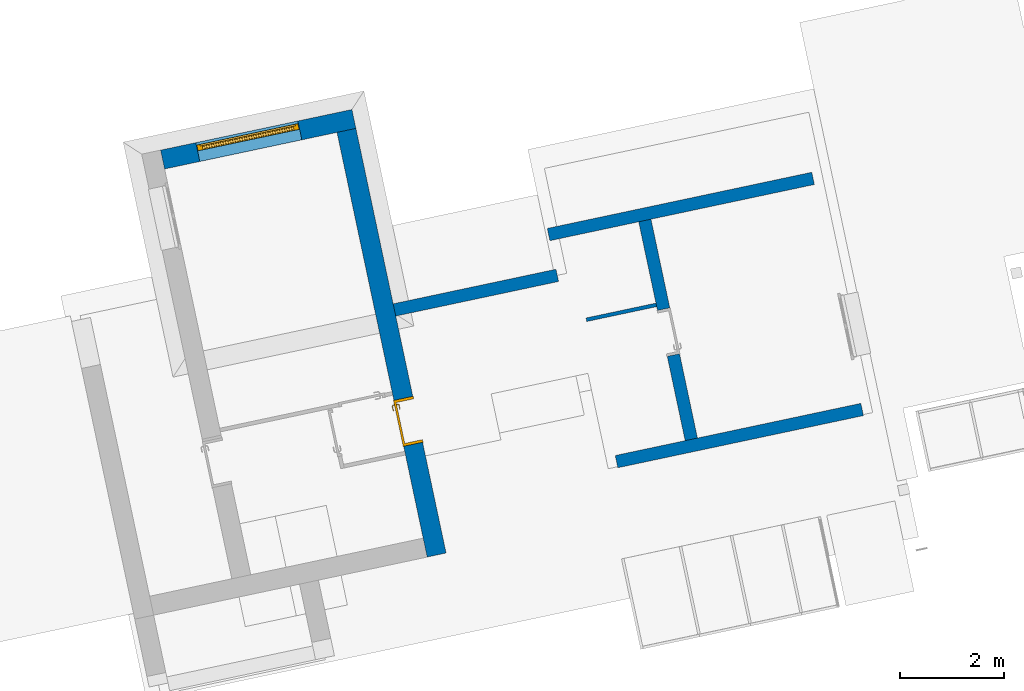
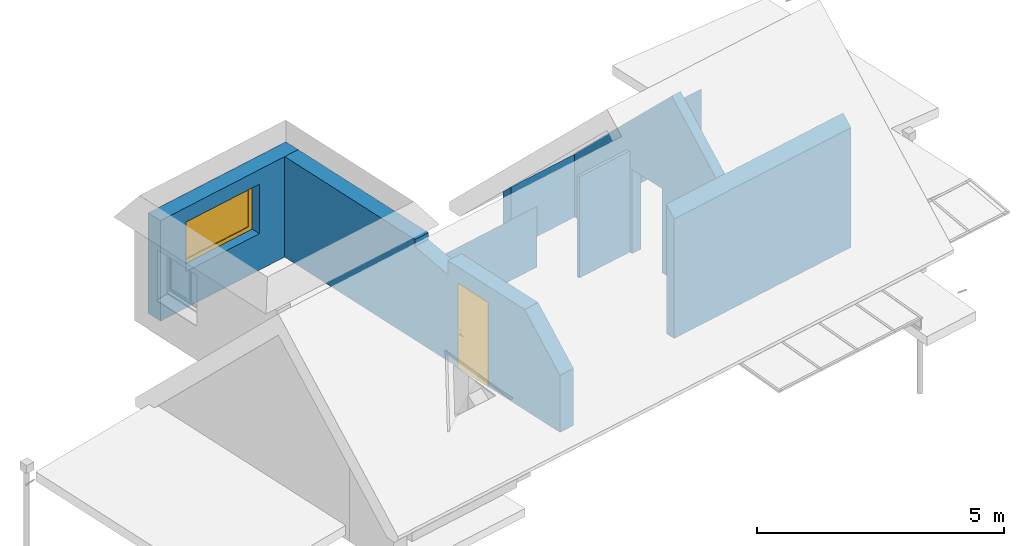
# One storey, part 5 of 10: 7 walls, 1 door, 1 window, 3 openings.
"""IFC2X3 building model written with IfcOpenShell, lengths in centimetres."""

from ifc_helpers import new_model, entity, si_unit, converted_unit, derived_unit, direction, frame, frame_2d, origin, place, context, subcontext, project, spatial, polyline, rectangle, outline, extrude, clip, halfspace, bounded_halfspace, faceted_brep, source, transform, mapped, material, material_list, layer, layer_set, layer_usage, type_object, type_shapes, element, fill, save


model = new_model("IFC2X3")

# Units and contexts
model_context = context("Model", 3, precision=0.001, world=origin(), true_north=direction((6.12303176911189e-17, 1.0)))
body_context = subcontext(model_context, "Body", "Model", "MODEL_VIEW")
ifc_project = project(units=[si_unit("LENGTHUNIT", "METRE", prefix="CENTI"), si_unit("AREAUNIT", "SQUARE_METRE"), si_unit("VOLUMEUNIT", "CUBIC_METRE"), converted_unit("PLANEANGLEUNIT", "DEGREE", entity("IfcRatioMeasure", 0.0174532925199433), si_unit("PLANEANGLEUNIT", "RADIAN"), dimensions=[0, 0, 0, 0, 0, 0, 0]), si_unit("MASSUNIT", "GRAM", prefix="KILO"), derived_unit("MASSDENSITYUNIT", [(si_unit("MASSUNIT", "GRAM", prefix="KILO"), 1), (si_unit("LENGTHUNIT", "METRE"), -3)]), derived_unit("IONCONCENTRATIONUNIT", [(si_unit("MASSUNIT", "GRAM", prefix="KILO"), 1), (si_unit("LENGTHUNIT", "METRE"), -3)]), derived_unit("MOMENTOFINERTIAUNIT", [(si_unit("LENGTHUNIT", "METRE"), 4)]), si_unit("TIMEUNIT", "SECOND"), si_unit("FREQUENCYUNIT", "HERTZ"), si_unit("THERMODYNAMICTEMPERATUREUNIT", "DEGREE_CELSIUS"), derived_unit("THERMALTRANSMITTANCEUNIT", [(si_unit("MASSUNIT", "GRAM", prefix="KILO"), 1), (si_unit("THERMODYNAMICTEMPERATUREUNIT", "KELVIN"), -1), (si_unit("TIMEUNIT", "SECOND"), -3)]), derived_unit("THERMALCONDUCTANCEUNIT", [(si_unit("MASSUNIT", "GRAM", prefix="KILO"), 1), (si_unit("THERMODYNAMICTEMPERATUREUNIT", "KELVIN"), -1), (si_unit("TIMEUNIT", "SECOND"), -3), (si_unit("LENGTHUNIT", "METRE"), 1)]), derived_unit("VOLUMETRICFLOWRATEUNIT", [(si_unit("LENGTHUNIT", "METRE"), 3), (si_unit("TIMEUNIT", "SECOND"), -1)]), derived_unit("MASSFLOWRATEUNIT", [(si_unit("MASSUNIT", "GRAM", prefix="KILO"), 1), (si_unit("TIMEUNIT", "SECOND"), -1)]), derived_unit("ROTATIONALFREQUENCYUNIT", [(si_unit("TIMEUNIT", "SECOND"), -1)]), si_unit("ELECTRICCURRENTUNIT", "AMPERE"), si_unit("ELECTRICVOLTAGEUNIT", "VOLT"), si_unit("POWERUNIT", "WATT"), si_unit("FORCEUNIT", "NEWTON", prefix="KILO"), si_unit("ILLUMINANCEUNIT", "LUX"), si_unit("LUMINOUSFLUXUNIT", "LUMEN"), si_unit("LUMINOUSINTENSITYUNIT", "CANDELA"), derived_unit("USERDEFINED", [(si_unit("MASSUNIT", "GRAM", prefix="KILO"), -1), (si_unit("LENGTHUNIT", "METRE"), -2), (si_unit("TIMEUNIT", "SECOND"), 3), (si_unit("LUMINOUSFLUXUNIT", "LUMEN"), 1)]), derived_unit("USERDEFINED", [(si_unit("MASSUNIT", "GRAM", prefix="KILO"), 1), (si_unit("TIMEUNIT", "SECOND"), -3), (si_unit("LENGTHUNIT", "METRE"), 3), (si_unit("ELECTRICCURRENTUNIT", "AMPERE"), -2)]), derived_unit("SOUNDPOWERUNIT", [(si_unit("MASSUNIT", "GRAM", prefix="KILO"), 1), (si_unit("TIMEUNIT", "SECOND"), -3), (si_unit("LENGTHUNIT", "METRE"), 2)]), derived_unit("SOUNDPRESSUREUNIT", [(si_unit("MASSUNIT", "GRAM", prefix="KILO"), 1), (si_unit("LENGTHUNIT", "METRE"), -1), (si_unit("TIMEUNIT", "SECOND"), -2)]), derived_unit("LINEARVELOCITYUNIT", [(si_unit("LENGTHUNIT", "METRE"), 1), (si_unit("TIMEUNIT", "SECOND"), -1)]), si_unit("PRESSUREUNIT", "PASCAL"), derived_unit("USERDEFINED", [(si_unit("MASSUNIT", "GRAM", prefix="KILO"), 1), (si_unit("LENGTHUNIT", "METRE"), -2), (si_unit("TIMEUNIT", "SECOND"), -2)]), derived_unit("LINEARFORCEUNIT", [(si_unit("MASSUNIT", "GRAM", prefix="KILO"), 1), (si_unit("TIMEUNIT", "SECOND"), -2)]), derived_unit("PLANARFORCEUNIT", [(si_unit("MASSUNIT", "GRAM", prefix="KILO"), 1), (si_unit("LENGTHUNIT", "METRE"), -1), (si_unit("TIMEUNIT", "SECOND"), -2)]), derived_unit("SPECIFICHEATCAPACITYUNIT", [(si_unit("THERMODYNAMICTEMPERATUREUNIT", "KELVIN"), -1), (si_unit("LENGTHUNIT", "METRE"), 2), (si_unit("TIMEUNIT", "SECOND"), -2)]), derived_unit("HEATINGVALUEUNIT", [(si_unit("LENGTHUNIT", "METRE"), 2), (si_unit("TIMEUNIT", "SECOND"), -2)]), derived_unit("VAPORPERMEABILITYUNIT", [(si_unit("LENGTHUNIT", "METRE"), -1), (si_unit("TIMEUNIT", "SECOND"), 1)]), derived_unit("DYNAMICVISCOSITYUNIT", [(si_unit("MASSUNIT", "GRAM", prefix="KILO"), 1), (si_unit("TIMEUNIT", "SECOND"), -1), (si_unit("LENGTHUNIT", "METRE"), -1)]), derived_unit("THERMALEXPANSIONCOEFFICIENTUNIT", [(si_unit("THERMODYNAMICTEMPERATUREUNIT", "KELVIN"), -1)]), derived_unit("MODULUSOFELASTICITYUNIT", [(si_unit("MASSUNIT", "GRAM", prefix="KILO"), 1), (si_unit("LENGTHUNIT", "METRE"), -1), (si_unit("TIMEUNIT", "SECOND"), -2)]), derived_unit("ISOTHERMALMOISTURECAPACITYUNIT", [(si_unit("LENGTHUNIT", "METRE"), 3), (si_unit("MASSUNIT", "GRAM", prefix="KILO"), -1)]), derived_unit("MOISTUREDIFFUSIVITYUNIT", [(si_unit("TIMEUNIT", "SECOND"), -1), (si_unit("LENGTHUNIT", "METRE"), 2)])], contexts=[model_context])

# Site, building, storey
site_placement = place(None, frame((14083.8920177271, -6853.25409548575, 6900.0), z_axis=(0.0, 0.0, 1.0), x_axis=(0.978188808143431, 0.207717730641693, 0.0)))
site = spatial("IfcSite", under=ifc_project, at=site_placement, Name="Surface", CompositionType="ELEMENT")
building_placement = place(site_placement, origin())
building = spatial("IfcBuilding", under=site, at=building_placement, CompositionType="ELEMENT")
storey_placement = place(building_placement, frame((0.0, 0.0, 289.0)))
storey = spatial("IfcBuildingStorey", under=building, at=storey_placement, Name="_R+1", CompositionType="ELEMENT", Elevation=289.0)

# Wall, opening, window
ifc_material_1 = material(Name="__ ENDUIT_Blanc")
ifc_layer_1 = layer(ifc_material_1, 2.0)
ifc_material_2 = material(Name="__ BETON_parpaings")
ifc_layer_2 = layer(ifc_material_2, 20.0)
ifc_material_3 = material(Name="__ ISOLANT (pat 1)")
ifc_layer_3 = layer(ifc_material_3, 13.0)
ifc_layer_4 = layer(ifc_material_1, 2.0)
ifc_layer_set_1 = layer_set([ifc_layer_1, ifc_layer_2, ifc_layer_3, ifc_layer_4], Name="Mur de base:*BRIQUE 37 (20 +INT 13+2 + EXT 2) (Iso+BA13)(enduit)")
ifc_layer_usage_1 = layer_usage(ifc_layer_set_1, "AXIS2", "NEGATIVE", 18.5)
wall_type_1 = type_object("IfcWallType", Name="Mur de base:*BRIQUE 37 (20 +INT 13+2 + EXT 2) (Iso+BA13)(enduit)", PredefinedType="STANDARD", material=ifc_layer_set_1)
wall_1_placement = place(storey_placement, frame((-7501.79714756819, 15696.1673447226, 0.0)))
wall_1 = element("IfcWallStandardCase", 1, at=wall_1_placement, inside=storey, type_object=wall_type_1, material=ifc_layer_usage_1, Name="Mur de base:*BRIQUE 37 (20 +INT 13+2 + EXT 2) (Iso+BA13)(enduit)", ObjectType="Mur de base:*BRIQUE 37 (20 +INT 13+2 + EXT 2) (Iso+BA13)(enduit)", context=body_context, shape_type="SweptSolid", body=[
    extrude(rectangle(XDim=374.842004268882, YDim=37.000000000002, at=frame_2d((187.421002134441, 0.0), x_axis=(-1.0, 0.0))), origin(), (0.0, 0.0, 1.0), 247.999999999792),
])
opening_1_placement = place(wall_1_placement, frame((269.0, 18.500000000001, 90.0)))
opening_1 = element("IfcOpeningElement", 2, at=opening_1_placement, cuts=wall_1, Name="OPTIMAL Top Turn Single Window-1:200x120 PVC:1", ObjectType="Opening", context=body_context, shape_type="SweptSolid", body=[
    extrude(rectangle(XDim=122.0, YDim=200.0, at=frame_2d((61.0, 99.9999999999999), x_axis=(1.0, 0.0))), frame((0.0, 0.0, 0.0), z_axis=(0.0, -1.0, 0.0), x_axis=(0.0, 0.0, 1.0)), (0.0, 0.0, 1.0), 37.0),
])
ifc_material_4 = material(Name="Fenêtre - Vitrage")
ifc_material_5 = material(Name="PVC - Blanc")
ifc_material_list = material_list([ifc_material_4, ifc_material_5])
window_style = type_object("IfcWindowStyle", Name="OPTIMAL Top Turn Single Window-1:200x120 PVC", ConstructionType="NOTDEFINED", OperationType="NOTDEFINED", ParameterTakesPrecedence=False, Sizeable=False, material=ifc_material_list)
shared_shape_1 = source(origin(), body_context, "Body", "SweptSolid", [
    extrude(rectangle(XDim=0.399999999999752, YDim=178.6, at=frame_2d((0.0, 7.105427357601e-15), x_axis=(1.0, 0.0))), frame((100.0, 10.1000000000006, 10.7000000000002), z_axis=(0.0, 0.0, 1.0), x_axis=(0.0, 1.0, 0.0)), (0.0, 0.0, 1.0), 100.6),
    extrude(rectangle(XDim=0.399999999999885, YDim=178.6, at=frame_2d((0.0, -7.105427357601e-15), x_axis=(1.0, 0.0))), frame((100.0, 14.1000000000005, 10.7000000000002), z_axis=(0.0, 0.0, 1.0), x_axis=(0.0, 1.0, 0.0)), (0.0, 0.0, 1.0), 100.6),
    extrude(outline(polyline([(-54.5, -93.5), (54.5, -93.5), (54.4999999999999, 93.5000000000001), (-54.5, 93.5), (-54.5, -93.5)]), holes=[polyline([(50.3, -89.3), (-50.2999999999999, -89.3), (-50.3, 89.3), (50.2999999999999, 89.3), (50.3, -89.3)])]), frame((100.0, 8.0, 61.0), z_axis=(0.0, 1.0, 0.0), x_axis=(0.0, 0.0, 1.0)), (0.0, 0.0, 1.0), 8.20000000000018),
    extrude(outline(polyline([(-60.0, -99.0), (60.0, -99.0), (60.0, 99.0), (-60.0, 99.0), (-60.0, -99.0)]), holes=[polyline([(54.5, -93.5), (-54.5, -93.5), (-54.5000000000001, 93.5), (54.5, 93.5), (54.5, -93.5)])]), frame((100.0, 5.0, 61.0), z_axis=(0.0, 1.0, 0.0), x_axis=(0.0, 0.0, 1.0)), (0.0, 0.0, 1.0), 11.2000000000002),
])
type_shapes(window_style, [shared_shape_1])
window_placement = place(opening_1_placement, frame((0.0, 0.0, 0.0), z_axis=(0.0, 0.0, 1.0), x_axis=(-1.0, 0.0, 0.0)))
window = element("IfcWindow", 3, at=window_placement, inside=storey, type_object=window_style, material=ifc_material_list, Name="OPTIMAL Top Turn Single Window-1:200x120 PVC", ObjectType="OPTIMAL Top Turn Single Window-1:200x120 PVC", OverallHeight=122.0, OverallWidth=200.0, context=body_context, shape_type="MappedRepresentation", body=[
    mapped(shared_shape_1, transform((0.0, 0.0, 0.0), scale=1.0)),
])
fill(opening_1, window)

# Wall, opening, door
wall_2_placement = place(storey_placement, frame((-7145.4551432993, 15677.6673447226, 0.0), z_axis=(0.0, 0.0, 1.0), x_axis=(0.0, -1.0, 0.0)))
wall_2 = element("IfcWallStandardCase", 4, at=wall_2_placement, inside=storey, type_object=wall_type_1, material=ifc_layer_usage_1, Name="Mur de base:*BRIQUE 37 (20 +INT 13+2 + EXT 2) (Iso+BA13)(enduit)", ObjectType="Mur de base:*BRIQUE 37 (20 +INT 13+2 + EXT 2) (Iso+BA13)(enduit)", context=body_context, shape_type="Clipping", body=[
    clip(clip(extrude(rectangle(XDim=831.994866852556, YDim=37.0000000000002, at=frame_2d((415.997433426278, -3.37507799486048e-14), x_axis=(-1.0, 0.0))), origin(), (0.0, 0.0, 1.0), 247.999999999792), bounded_halfspace(frame((393.500000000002, -18.5000000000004, 231.0), z_axis=(0.173648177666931, 0.0, 0.984807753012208), x_axis=(0.0, 1.0, 0.0)), False, frame((393.500000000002, -18.5000000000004, 231.0)), polyline([(0.0, 0.0), (100.0, 0.0), (100.0, 37.0), (0.0, 37.0), (0.0, 0.0)]))), halfspace(frame((725.068459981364, -18.5000000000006, 248.0), z_axis=(0.707106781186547, 0.0, 0.707106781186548), x_axis=(0.0, 1.0, 0.0)), False)),
])
opening_2_placement = place(wall_2_placement, frame((614.994866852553, 18.4999999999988, 0.0)))
opening_2 = element("IfcOpeningElement", 5, at=opening_2_placement, cuts=wall_2, Name="*Porte_alveolaire:Pp 83 x 204:1", ObjectType="Opening", context=body_context, shape_type="SweptSolid", body=[
    extrude(rectangle(XDim=207.5, YDim=90.0, at=frame_2d((103.75, 44.9999999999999), x_axis=(1.0, 0.0))), frame((0.0, 0.0, 0.0), z_axis=(0.0, -1.0, 0.0), x_axis=(0.0, 0.0, 1.0)), (0.0, 0.0, 1.0), 37.0),
])
ifc_material_6 = material(Name="<Unnamed>")
door_style = type_object("IfcDoorStyle", Name="*Porte_alveolaire:Pp 83 x 204", ConstructionType="NOTDEFINED", OperationType="NOTDEFINED", ParameterTakesPrecedence=False, Sizeable=False, material=ifc_material_6)
shared_shape_2 = source(origin(), body_context, "Body", "Brep", [
    faceted_brep([(8.7974701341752, 3.69999999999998, 89.2219559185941), (9.20252986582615, 3.69999999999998, 89.221955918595), (9.60000000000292, 3.69999999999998, 89.3000000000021), (9.60000000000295, 3.69999999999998, 90.699999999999), (9.20252986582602, 3.69999999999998, 90.7780440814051), (8.79747013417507, 3.69999999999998, 90.7780440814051), (8.39999999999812, 3.69999999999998, 90.699999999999), (8.39999999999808, 3.69999999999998, 89.2999999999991), (9.60000000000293, 5.94852045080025, 89.3000000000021), (9.60000000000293, 5.94852045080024, 90.699999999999), (9.20252986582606, 6.11315797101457, 90.7780440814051), (10.5838906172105, 7.49451872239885, 90.7780440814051), (10.4161093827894, 7.8995784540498, 90.7780440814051), (8.7974701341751, 6.28093920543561, 90.7780440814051), (19.5684749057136, 6.84673156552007, 90.7780440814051), (19.8548953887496, 7.13315204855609, 90.7780440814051), (19.0884689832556, 7.8995784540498, 90.7780440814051), (18.9206877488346, 7.49451872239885, 90.7780440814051), (8.39999999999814, 6.44557672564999, 90.699999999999), (8.39999999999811, 6.44557672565, 89.2999999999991), (8.7974701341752, 6.28093920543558, 89.2219559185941), (10.4161093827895, 7.89957845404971, 89.2219559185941), (10.5838906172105, 7.49451872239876, 89.221955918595), (9.20252986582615, 6.11315797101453, 89.221955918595), (19.8548953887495, 7.13315204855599, 89.221955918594), (19.5684749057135, 6.84673156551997, 89.221955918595), (18.9206877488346, 7.49451872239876, 89.221955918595), (19.0884689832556, 7.89957845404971, 89.221955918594), (10.7485281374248, 7.09704858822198, 89.3000000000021), (10.7485281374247, 7.09704858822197, 90.699999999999), (10.2514718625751, 8.29704858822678, 90.699999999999), (10.2514718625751, 8.2970485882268, 89.2999999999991), (14.7522879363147, 7.097048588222, 89.300000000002), (18.7560502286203, 7.09704858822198, 89.300000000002), (18.7560502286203, 7.09704858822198, 90.699999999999), (14.7522891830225, 7.09704858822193, 90.699999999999), (14.7522891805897, 7.71249275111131, 90.7878116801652), (19.25310650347, 8.29704858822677, 90.699999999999), (15.2600577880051, 8.29704858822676, 90.699999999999), (19.25310650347, 8.29704858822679, 89.2999999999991), (14.2445205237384, 8.29704858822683, 89.2999999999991), (14.7522892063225, 7.7124927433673, 89.2121883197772), (19.287421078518, 6.56567773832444, 89.300000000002), (20.1359492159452, 7.41420587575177, 89.2999999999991), (20.1359492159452, 7.41420587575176, 90.699999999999), (19.287421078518, 6.56567773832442, 90.699999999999)], [[[0, 1, 2, 3, 4, 5, 6, 7]], [[3, 2, 8, 9]], [[9, 10, 4, 3]], [[10, 11, 12, 13, 5, 4]], [[14, 15, 16, 17]], [[13, 18, 6, 5]], [[7, 6, 18, 19]], [[19, 20, 0, 7]], [[20, 21, 22, 23, 1, 0]], [[24, 25, 26, 27]], [[23, 8, 2, 1]], [[9, 8, 28, 29]], [[29, 11, 10, 9]], [[12, 30, 18, 13]], [[19, 18, 30, 31]], [[31, 21, 20, 19]], [[22, 28, 8, 23]], [[28, 32, 33, 34, 35, 29]], [[11, 35, 36]], [[16, 37, 38]], [[30, 12, 38]], [[38, 12, 36]], [[36, 35, 17]], [[17, 16, 36]], [[35, 11, 29]], [[34, 17, 35]], [[11, 36, 12]], [[38, 36, 16]], [[31, 30, 38, 37, 39, 40]], [[40, 41, 21]], [[41, 40, 27]], [[21, 31, 40]], [[39, 27, 40]], [[41, 32, 22]], [[22, 21, 41]], [[26, 32, 41]], [[28, 22, 32]], [[32, 26, 33]], [[26, 41, 27]], [[42, 25, 24, 43, 44, 15, 14, 45]], [[34, 33, 42, 45]], [[45, 14, 17, 34]], [[15, 44, 37, 16]], [[39, 37, 44, 43]], [[43, 24, 27, 39]], [[25, 42, 33, 26]]]),
    faceted_brep([(8.79747013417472, -1.30000000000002, 90.7780440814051), (9.20252986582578, -1.30000000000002, 90.7780440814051), (9.60000000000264, -1.30000000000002, 90.6999999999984), (9.60000000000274, -1.30000000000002, 89.3000000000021), (9.20252986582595, -1.30000000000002, 89.221955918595), (8.79747013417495, -1.30000000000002, 89.221955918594), (8.39999999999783, -1.30000000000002, 89.2999999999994), (8.39999999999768, -1.30000000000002, 90.699999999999), (8.39999999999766, -4.06509507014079, 90.6999999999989), (8.79747013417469, -3.9004575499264, 90.7780440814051), (10.402358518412, -5.50534593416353, 90.7780440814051), (10.570139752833, -5.10028620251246, 90.7780440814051), (9.20252986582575, -3.73267631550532, 90.7780440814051), (19.852181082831, -4.73891952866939, 90.778044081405), (19.5657605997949, -4.45249904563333, 90.778044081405), (18.9179734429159, -5.10028620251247, 90.778044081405), (19.085754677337, -5.50534593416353, 90.778044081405), (9.60000000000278, -3.56803879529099, 90.699999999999), (9.60000000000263, -3.56803879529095, 89.3000000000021), (9.20252986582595, -3.73267631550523, 89.221955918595), (10.5701397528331, -5.10028620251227, 89.221955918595), (10.4023585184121, -5.50534593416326, 89.221955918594), (8.79747013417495, -3.90045754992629, 89.221955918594), (19.5657605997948, -4.45249904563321, 89.221955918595), (19.8521810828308, -4.73891952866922, 89.221955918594), (19.0857546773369, -5.50534593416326, 89.221955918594), (18.9179734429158, -5.10028620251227, 89.221955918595), (8.39999999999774, -4.06509507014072, 89.2999999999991), (10.2377209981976, -5.90281606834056, 90.6999999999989), (10.7347772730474, -4.70281606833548, 90.699999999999), (10.7347772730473, -4.70281606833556, 89.3000000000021), (10.2377209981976, -5.90281606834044, 89.2999999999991), (14.2307697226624, -5.90281606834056, 90.6999999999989), (14.7440566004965, -5.31828027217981, 90.7878115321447), (19.2503921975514, -5.90281606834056, 90.6999999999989), (14.7440565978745, -4.70281606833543, 90.699999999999), (18.7533359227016, -4.70281606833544, 90.6999999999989), (18.7533359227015, -4.70281606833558, 89.300000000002), (14.7440563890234, -4.70281606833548, 89.3000000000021), (14.7440565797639, -5.31828027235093, 89.2121884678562), (19.2503921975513, -5.90281606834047, 89.2999999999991), (15.2573436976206, -5.90281606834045, 89.2999999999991), (19.2847067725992, -4.17144521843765, 90.6999999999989), (20.1332349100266, -5.01997335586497, 90.6999999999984), (20.1332349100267, -5.019973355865, 89.2999999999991), (19.2847067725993, -4.17144521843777, 89.3000000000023)], [[[0, 1, 2, 3, 4, 5, 6, 7]], [[8, 9, 0, 7]], [[9, 10, 11, 12, 1, 0]], [[13, 14, 15, 16]], [[12, 17, 2, 1]], [[3, 2, 17, 18]], [[18, 19, 4, 3]], [[19, 20, 21, 22, 5, 4]], [[23, 24, 25, 26]], [[22, 27, 6, 5]], [[7, 6, 27, 8]], [[28, 10, 9, 8]], [[11, 29, 17, 12]], [[18, 17, 29, 30]], [[30, 20, 19, 18]], [[21, 31, 27, 22]], [[8, 27, 31, 28]], [[32, 33, 10]], [[33, 32, 16]], [[10, 28, 32]], [[34, 16, 32]], [[33, 35, 11]], [[11, 10, 33]], [[15, 35, 33]], [[29, 11, 35]], [[35, 15, 36]], [[15, 33, 16]], [[30, 29, 35, 36, 37, 38]], [[20, 38, 39]], [[25, 40, 41]], [[31, 21, 41]], [[41, 21, 39]], [[39, 38, 26]], [[26, 25, 39]], [[38, 20, 30]], [[37, 26, 38]], [[20, 39, 21]], [[41, 39, 25]], [[28, 31, 41, 40, 34, 32]], [[42, 14, 13, 43, 44, 24, 23, 45]], [[43, 13, 16, 34]], [[14, 42, 36, 15]], [[37, 36, 42, 45]], [[45, 23, 26, 37]], [[24, 44, 40, 25]], [[34, 40, 44, 43]]]),
    faceted_brep([(10.03527618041, 3.19999999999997, 76.6003983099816), (11.0, 3.19999999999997, 77.0), (11.0, 3.19999999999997, 98.0), (10.03527618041, 3.19999999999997, 98.3996016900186), (9.0, 3.19999999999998, 98.5358983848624), (7.96472381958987, 3.19999999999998, 98.3996016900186), (7.0, 3.19999999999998, 98.0), (7.0, 3.19999999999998, 77.0), (7.96472381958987, 3.19999999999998, 76.6003983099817), (9.0, 3.19999999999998, 76.4641016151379), (10.03527618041, 3.69999999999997, 98.3996016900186), (11.0, 3.69999999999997, 98.0), (11.0, 3.69999999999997, 77.0), (10.03527618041, 3.69999999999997, 76.6003983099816), (9.0, 3.69999999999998, 76.4641016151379), (7.96472381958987, 3.69999999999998, 76.6003983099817), (7.0, 3.69999999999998, 77.0), (7.0, 3.69999999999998, 98.0), (7.96472381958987, 3.69999999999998, 98.3996016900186), (9.0, 3.69999999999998, 98.5358983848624)], [[[0, 1, 2, 3, 4, 5, 6, 7, 8, 9]], [[10, 11, 12, 13, 14, 15, 16, 17, 18, 19]], [[11, 10, 3, 2]], [[3, 10, 19, 4]], [[19, 18, 5, 4]], [[18, 17, 6, 5]], [[7, 6, 17, 16]], [[16, 15, 8, 7]], [[8, 15, 14, 9]], [[14, 13, 0, 9]], [[13, 12, 1, 0]], [[2, 1, 12, 11]]]),
    faceted_brep([(10.03527618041, -1.30000000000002, 76.6003983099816), (11.0, -1.30000000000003, 77.0), (11.0, -1.30000000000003, 98.0), (10.03527618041, -1.30000000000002, 98.3996016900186), (9.0, -1.30000000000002, 98.5358983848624), (7.96472381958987, -1.30000000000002, 98.3996016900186), (7.0, -1.30000000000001, 98.0), (7.0, -1.30000000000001, 77.0), (7.96472381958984, -1.30000000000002, 76.6003983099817), (9.0, -1.30000000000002, 76.4641016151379), (10.03527618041, -0.800000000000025, 98.3996016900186), (11.0, -0.800000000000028, 98.0), (11.0, -0.800000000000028, 77.0), (10.03527618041, -0.800000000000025, 76.6003983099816), (9.0, -0.800000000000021, 76.4641016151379), (7.96472381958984, -0.800000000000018, 76.6003983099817), (7.0, -0.800000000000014, 77.0), (7.0, -0.800000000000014, 98.0), (7.96472381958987, -0.800000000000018, 98.3996016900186), (9.0, -0.800000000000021, 98.5358983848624)], [[[0, 1, 2, 3, 4, 5, 6, 7, 8, 9]], [[10, 11, 12, 13, 14, 15, 16, 17, 18, 19]], [[16, 15, 8, 7]], [[8, 15, 14, 9]], [[14, 13, 0, 9]], [[13, 12, 1, 0]], [[2, 1, 12, 11]], [[11, 10, 3, 2]], [[3, 10, 19, 4]], [[19, 18, 5, 4]], [[18, 17, 6, 5]], [[7, 6, 17, 16]]]),
    faceted_brep([(0.0, 0.0, 0.0), (0.0, 37.0, 0.0), (-1.0, 37.0, 0.0), (-1.0, 37.8000000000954, 0.0), (5.0, 37.8000000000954, 0.0), (5.0, 3.2, 0.0), (3.49999999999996, 3.2, 0.0), (3.49999999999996, -0.800000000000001, 0.0), (-1.0, -0.800000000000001, 0.0), (-1.0, 0.0, 0.0), (0.0, 0.0, 207.5), (0.0, 37.0, 207.5), (90.0, 37.0, 207.5), (90.0, 37.0, 0.0), (91.0, 37.0, 0.0), (91.0, 37.0, 208.5), (-1.0, 37.0, 208.5), (-1.0, 37.8000000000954, 208.5), (91.0, 37.8000000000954, 208.5), (91.0, 37.8000000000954, 0.0), (85.0, 37.8000000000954, 0.0), (85.0, 37.8000000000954, 202.500000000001), (5.0, 37.8000000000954, 202.500000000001), (5.0, 3.2, 202.500000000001), (85.0, 3.2, 202.500000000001), (85.0, 3.2, 0.0), (86.5, 3.2, 0.0), (86.5, 3.2, 204.0), (3.49999999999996, 3.2, 204.0), (3.49999999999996, -0.800000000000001, 204.0), (86.5, -0.800000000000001, 204.0), (86.5, -0.800000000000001, 0.0), (91.0, -0.800000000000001, 0.0), (91.0, -0.800000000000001, 208.5), (-1.0, -0.800000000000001, 208.5), (-1.0, 0.0, 208.5), (91.0, 0.0, 208.5), (91.0, 0.0, 0.0), (90.0, 0.0, 0.0), (90.0, 0.0, 207.5)], [[[0, 1, 2, 3, 4, 5, 6, 7, 8, 9]], [[1, 0, 10, 11]], [[2, 1, 11, 12, 13, 14, 15, 16]], [[3, 2, 16, 17]], [[4, 3, 17, 18, 19, 20, 21, 22]], [[5, 4, 22, 23]], [[6, 5, 23, 24, 25, 26, 27, 28]], [[7, 6, 28, 29]], [[8, 7, 29, 30, 31, 32, 33, 34]], [[9, 8, 34, 35]], [[0, 9, 35, 36, 37, 38, 39, 10]], [[12, 39, 38, 13]], [[38, 37, 32, 31, 26, 25, 20, 19, 14, 13]], [[18, 15, 14, 19]], [[24, 21, 20, 25]], [[30, 27, 26, 31]], [[36, 33, 32, 37]], [[11, 10, 39, 12]], [[17, 16, 15, 18]], [[23, 22, 21, 24]], [[29, 28, 27, 30]], [[35, 34, 33, 36]]]),
    faceted_brep([(3.49999999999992, -0.800000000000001, 204.0), (3.49999999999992, -0.800000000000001, 0.0), (86.5, -0.800000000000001, 0.0), (86.5, -0.800000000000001, 204.0), (3.49999999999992, 3.2, 204.0), (86.5, 3.2, 204.0), (86.5, 3.2, 0.0), (3.49999999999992, 3.2, 0.0)], [[[0, 1, 2, 3]], [[4, 5, 6, 7]], [[1, 0, 4, 7]], [[2, 1, 7, 6]], [[3, 2, 6, 5]], [[0, 3, 5, 4]]]),
])
type_shapes(door_style, [shared_shape_2])
door_placement = place(opening_2_placement, frame((-90.0, -37.0, 0.0)))
door = element("IfcDoor", 6, at=door_placement, inside=storey, type_object=door_style, material=ifc_material_6, Name="*Porte_alveolaire:Pp 83 x 204", ObjectType="*Porte_alveolaire:Pp 83 x 204", OverallHeight=207.5, OverallWidth=90.0000000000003, context=body_context, shape_type="MappedRepresentation", body=[
    mapped(shared_shape_2, transform((0.0, 0.0, 0.0), scale=1.0)),
])
fill(opening_2, door)

# Walls
ifc_layer_5 = layer(ifc_material_1, 2.0)
ifc_material_7 = material(Name="Béton, précoulé")
ifc_layer_6 = layer(ifc_material_7, 20.0)
ifc_layer_7 = layer(ifc_material_1, 2.0)
ifc_layer_set_2 = layer_set([ifc_layer_5, ifc_layer_6, ifc_layer_7], Name="Mur de base:*BRIQUE 24 (20 + INT 2 + EXT 2) (enduit 2 faces)")
ifc_layer_usage_2 = layer_usage(ifc_layer_set_2, "AXIS2", "NEGATIVE", 12.0)
wall_type_2 = type_object("IfcWallType", Name="Mur de base:*BRIQUE 24 (20 + INT 2 + EXT 2) (enduit 2 faces)", PredefinedType="STANDARD", material=ifc_layer_set_2)
wall_3_placement = place(storey_placement, frame((-7126.9551432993, 15321.9391445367, 0.0)))
element("IfcWallStandardCase", 7, at=wall_3_placement, inside=storey, type_object=wall_type_2, material=ifc_layer_usage_2, Name="Mur de base:*BRIQUE 24 (20 + INT 2 + EXT 2) (enduit 2 faces)", ObjectType="Mur de base:*BRIQUE 24 (20 + INT 2 + EXT 2) (enduit 2 faces)", context=body_context, shape_type="Clipping", body=[
    clip(extrude(rectangle(XDim=319.000000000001, YDim=24.0000000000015, at=frame_2d((159.500000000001, 1.33226762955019e-14), x_axis=(-1.0, 0.0))), origin(), (0.0, 0.0, 1.0), 150.000000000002), bounded_halfspace(frame((0.0, -12.0, 150.0), z_axis=(0.0, 0.707106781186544, 0.707106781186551), x_axis=(-1.0, 0.0, 0.0)), False, frame((0.0, -12.0, 150.0)), polyline([(0.0, 0.0), (319.0, 0.0), (319.0, 24.0), (0.0, 24.0), (0.0, 0.0)]))),
])
wall_4_placement = place(storey_placement, frame((-6807.9551432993, 15401.9391445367, 0.0)))
element("IfcWallStandardCase", 8, at=wall_4_placement, inside=storey, type_object=wall_type_2, material=ifc_layer_usage_2, Name="Mur de base:*BRIQUE 24 (20 + INT 2 + EXT 2) (enduit 2 faces)", ObjectType="Mur de base:*BRIQUE 24 (20 + INT 2 + EXT 2) (enduit 2 faces)", context=body_context, shape_type="Clipping", body=[
    clip(extrude(rectangle(XDim=518.141924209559, YDim=24.0000000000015, at=frame_2d((259.07096210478, 3.81916720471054e-14), x_axis=(-1.0, 0.0))), origin(), (0.0, 0.0, 1.0), 155.693308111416), bounded_halfspace(frame((0.0, -12.0, 155.693308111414), z_axis=(0.0, 0.707106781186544, 0.707106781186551), x_axis=(-1.0, 0.0, 0.0)), False, frame((0.0, -12.0, 155.693308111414)), polyline([(0.0, 0.0), (518.141924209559, 0.0), (518.141924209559, 24.0), (0.0, 24.0), (0.0, 0.0)]))),
])
wall_5_placement = place(storey_placement, frame((-6770.9551432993, 14949.1724778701, 0.0)))
element("IfcWallStandardCase", 9, at=wall_5_placement, inside=storey, type_object=wall_type_2, material=ifc_layer_usage_2, Name="Mur de base:*BRIQUE 24 (20 + INT 2 + EXT 2) (enduit 2 faces)", ObjectType="Mur de base:*BRIQUE 24 (20 + INT 2 + EXT 2) (enduit 2 faces)", context=body_context, shape_type="Clipping", body=[
    clip(extrude(rectangle(XDim=481.141924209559, YDim=24.0000000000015, at=frame_2d((240.570962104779, -2.66453525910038e-14), x_axis=(-1.0, 0.0))), origin(), (0.0, 0.0, 1.0), 319.500000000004), bounded_halfspace(frame((0.0, -12.0, 295.500000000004), z_axis=(0.0, -0.707106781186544, 0.707106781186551), x_axis=(1.0, 0.0, 0.0)), False, frame((0.0, -12.0, 295.500000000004)), polyline([(0.0, 0.0), (481.141924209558, 0.0), (481.141924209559, 24.0), (0.0, 24.0), (0.0, 0.0)]))),
])

# Wall, opening
wall_6_placement = place(storey_placement, frame((-6621.9551432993, 15389.9391445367, 0.0), z_axis=(0.0, 0.0, 1.0), x_axis=(0.0, -1.0, 0.0)))
wall_6 = element("IfcWallStandardCase", 10, at=wall_6_placement, inside=storey, type_object=wall_type_2, material=ifc_layer_usage_2, Name="Mur de base:*BRIQUE 24 (20 + INT 2 + EXT 2) (enduit 2 faces)", ObjectType="Mur de base:*BRIQUE 24 (20 + INT 2 + EXT 2) (enduit 2 faces)", context=body_context, shape_type="Clipping", body=[
    clip(clip(extrude(rectangle(XDim=23.9999999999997, YDim=428.766666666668, at=frame_2d((214.383333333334, -3.37507799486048e-14), x_axis=(0.0, 1.0))), origin(), (0.0, 0.0, 1.0), 451.979987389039), bounded_halfspace(frame((428.766666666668, -12.0, 316.5), z_axis=(0.707106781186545, 0.0, 0.70710678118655), x_axis=(0.0, 1.0, 0.0)), False, frame((428.766666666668, -12.0, 316.5)), polyline([(0.0, 0.0), (0.0, 24.0), (-135.479987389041, 24.0), (-135.479987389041, 0.0), (0.0, 0.0)]))), bounded_halfspace(frame((0.0, 12.0, 158.693308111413), z_axis=(-0.707106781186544, 0.0, 0.707106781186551), x_axis=(0.0, -1.0, 0.0)), False, frame((0.0, 12.0, 158.693308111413)), polyline([(0.0, 0.0), (0.0, -24.0), (293.286679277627, -24.0), (293.286679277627, 0.0), (0.0, 0.0)]))),
])
opening_3_placement = place(wall_6_placement, frame((173.633333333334, -12.0, 0.0)))
element("IfcOpeningElement", 11, at=opening_3_placement, cuts=wall_6, Name="*Porte_alveolaire:Pp 83 x 204:1", ObjectType="Opening", context=body_context, shape_type="SweptSolid", body=[
    extrude(rectangle(XDim=207.5, YDim=89.9999999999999, at=frame_2d((103.75, 45.0), x_axis=(1.0, 0.0))), frame((0.0, 0.0, 0.0), z_axis=(0.0, 1.0, 0.0), x_axis=(0.0, 0.0, 1.0)), (0.0, 0.0, 1.0), 24.0),
])

# Wall
ifc_material_8 = material(Name="__ BA 13")
ifc_layer_8 = layer(ifc_material_8, 7.0)
ifc_layer_set_3 = layer_set([ifc_layer_8], Name="Mur de base:*Cloison 72/48 cm")
ifc_layer_usage_3 = layer_usage(ifc_layer_set_3, "AXIS2", "NEGATIVE", 3.5)
wall_type_3 = type_object("IfcWallType", Name="Mur de base:*Cloison 72/48 cm", PredefinedType="STANDARD", material=ifc_layer_set_3)
wall_7_placement = place(storey_placement, frame((-6770.9551432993, 15227.1724778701, 0.0)))
element("IfcWallStandardCase", 12, at=wall_7_placement, inside=storey, type_object=wall_type_3, material=ifc_layer_usage_3, Name="Mur de base:*Cloison 72/48 cm", ObjectType="Mur de base:*Cloison 72/48 cm", context=body_context, shape_type="SweptSolid", body=[
    extrude(rectangle(XDim=137.000000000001, YDim=6.99999999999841, at=frame_2d((68.5000000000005, 0.0), x_axis=(-1.0, 0.0))), origin(), (0.0, 0.0, 1.0), 250.0),
])

save(model, "model.ifc")
